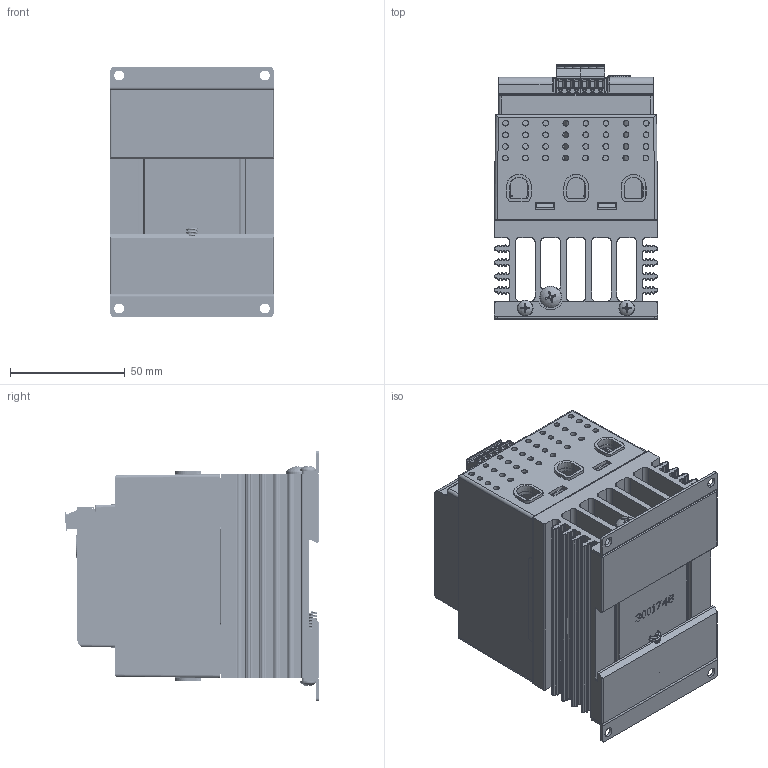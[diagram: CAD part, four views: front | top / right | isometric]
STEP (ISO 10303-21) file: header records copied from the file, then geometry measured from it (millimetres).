
FILE_DESCRIPTION(/* description */ (''),/* implementation_level */ '2;1');
FILE_NAME(/* name */ '3-phase Analog 16A w-tabs.stp',/* time_stamp */ '2024-11-15T09:07:41-06:00',/* author */ ('ErikG'),/* organization */ (''),/* preprocessor_version */ 'ST-DEVELOPER v20',/* originating_system */ 'Autodesk Inventor 2025',/* authorisation */ '');
FILE_SCHEMA (('AUTOMOTIVE_DESIGN { 1 0 10303 214 3 1 1 }'));
Products named in the file (24): 3001632e; 1001590e; P3; TC0203620000G; P2; usb-c31-s-vt-cs4-bk-pp-t-r-model ADAMTECH; P1; fci 6 pin header OQ06120000J0G; fci 6 pin headerOQ06120000J0G half 1; fci 5 pin header OQ05120000J0G half 2; fci 6 pin connector TS06110B00J0G; fci 5 pin connector TS05110B00J0G LEFT HALF; fci 5 pin connector TS05110B00J0G RIGHT HALF; 3001767; 3001760; 3001759; 3001766; 3001765b; 3001748; spring; 0060783-0610-010.ipt; 0060702-1032-0375; 0060002-0632-0375; 3001753
Assembly tree (28 placements, depth 6):
  3001632e
    1001590e
      P3
        TC0203620000G
      P2
        usb-c31-s-vt-cs4-bk-pp-t-r-model ADAMTECH
      P1
        fci 6 pin header OQ06120000J0G
          fci 6 pin headerOQ06120000J0G half 1
          fci 5 pin header OQ05120000J0G half 2
          fci 6 pin connector TS06110B00J0G
            fci 5 pin connector TS05110B00J0G LEFT HALF
            fci 5 pin connector TS05110B00J0G RIGHT HALF
    3001767
    3001760  x2
    3001759
    3001766
    3001765b
    3001748
    spring
    0060783-0610-010.ipt
    0060702-1032-0375
    3001753  x2
    0060002-0632-0375  x4
Bounding box: 71.12 x 110.89 x 109.22 mm (x, y, z)
Volume: 227163.6 mm3; surface area: 209554 mm2
Topology: 23 solids, 113 shells, 6030 faces, 16646 edges, 10958 vertices
Faces by surface type: plane 4400, cylinder 1100, cone 361, torus 87, bspline 75, sphere 7
Full cylindrical faces by diameter (mm): 0.254 x1, 0.45 x2, 0.55 x2, 0.65 x2, 1 x6, 1.75 x2, 2.15 x12, 2.3 x12, 2.54 x2, 2.642 x6, 2.7 x2, 2.8 x4, 2.95 x6, 3.277 x4, 3.505 x4, 3.6 x2, 4.318 x8, 4.826 x1, 4.917 x1, 6 x1, 6.172 x1, 6.858 x4, 7.976 x1, 9.474 x1
Entity records: 211692 total; most frequent: CARTESIAN_POINT 59389, ORIENTED_EDGE 32454, DIRECTION 30200, EDGE_CURVE 16227, LINE 12156, VECTOR 12156, VERTEX_POINT 10690, AXIS2_PLACEMENT_3D 9022
